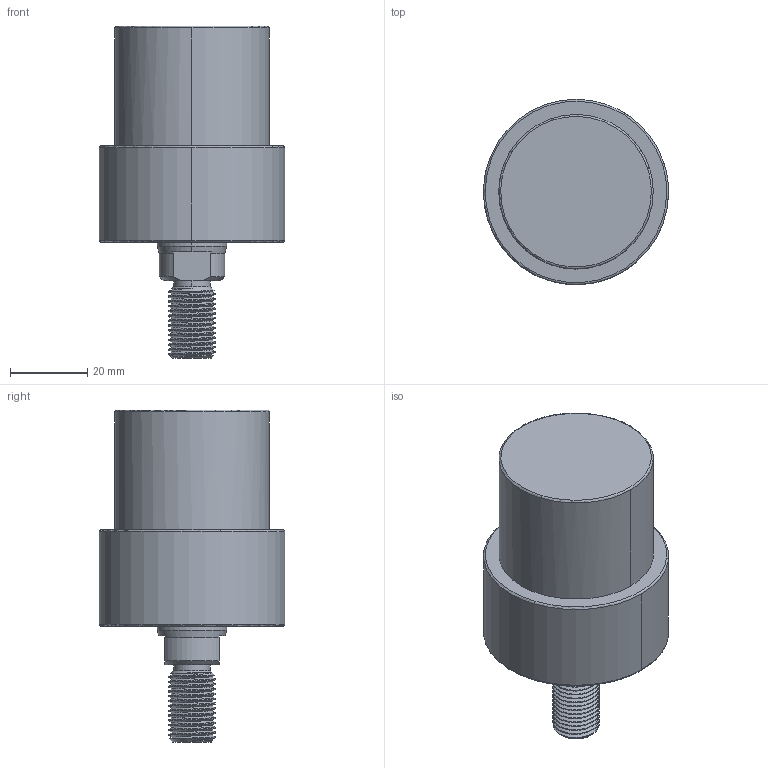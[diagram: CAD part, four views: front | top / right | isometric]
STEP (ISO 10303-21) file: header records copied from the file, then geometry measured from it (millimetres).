
FILE_DESCRIPTION((' '),'2;1');
FILE_NAME( 'TLLU-040GT-020.STEP.stp', '2025-10-24T16:37:13', (' '), ('--- Datakit www.datakit.com---'), ' Datakit CrossCadWare V2024.1 Dec 21 2023', 'Mastercam 2025', ' ');
FILE_SCHEMA(('AUTOMOTIVE_DESIGN { 1 0 10303 214 1 1 1 1 }'));
Length unit declared in the file: millimetre
Products named in the file (1): TLLU-040GT-020
Bounding box: 47.99 x 48 x 86 mm (x, y, z)
Volume: 87334.6 mm3; surface area: 13688.3 mm2
Topology: 1 solids, 1 shells, 94 faces, 335 edges, 244 vertices
Faces by surface type: cylinder 49, cone 25, plane 12, torus 6, bspline 2
Entity records: 9420 total; most frequent: CARTESIAN_POINT 6654, ORIENTED_EDGE 654, DIRECTION 504, EDGE_CURVE 327, VERTEX_POINT 244, AXIS2_PLACEMENT_3D 212, B_SPLINE_CURVE_WITH_KNOTS 128, CIRCLE 119
